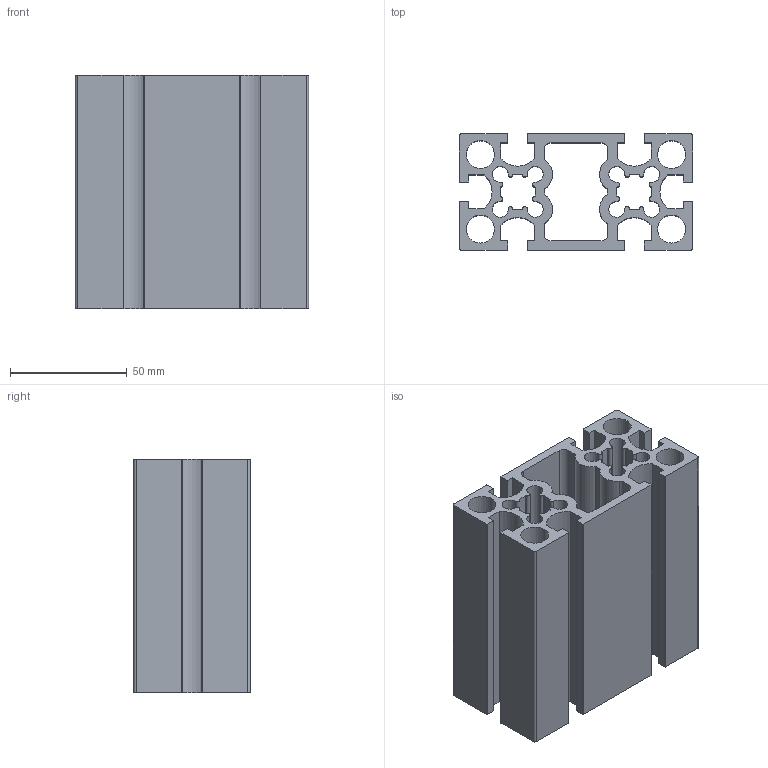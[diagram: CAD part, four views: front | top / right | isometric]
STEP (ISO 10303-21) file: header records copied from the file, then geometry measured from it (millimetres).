
FILE_DESCRIPTION (( 'STEP AP203' ), '1' );
FILE_NAME ('WS50100-8.STEP', '2024-02-19T05:37:52', ( '' ), ( '' ), 'SwSTEP 2.0', 'SolidWorks 2022', '' );
FILE_SCHEMA (( 'CONFIG_CONTROL_DESIGN' ));
Length unit declared in the file: millimetre
Products named in the file (1): WS50100-8
Bounding box: 100 x 50 x 100 mm (x, y, z)
Volume: 191431.4 mm3; surface area: 105604 mm2
Topology: 1 solids, 1 shells, 177 faces, 525 edges, 350 vertices
Faces by surface type: cylinder 113, plane 64
Entity records: 6130 total; most frequent: DIRECTION 1107, CARTESIAN_POINT 1053, ORIENTED_EDGE 1050, EDGE_CURVE 525, AXIS2_PLACEMENT_3D 404, VERTEX_POINT 350, LINE 299, VECTOR 299
